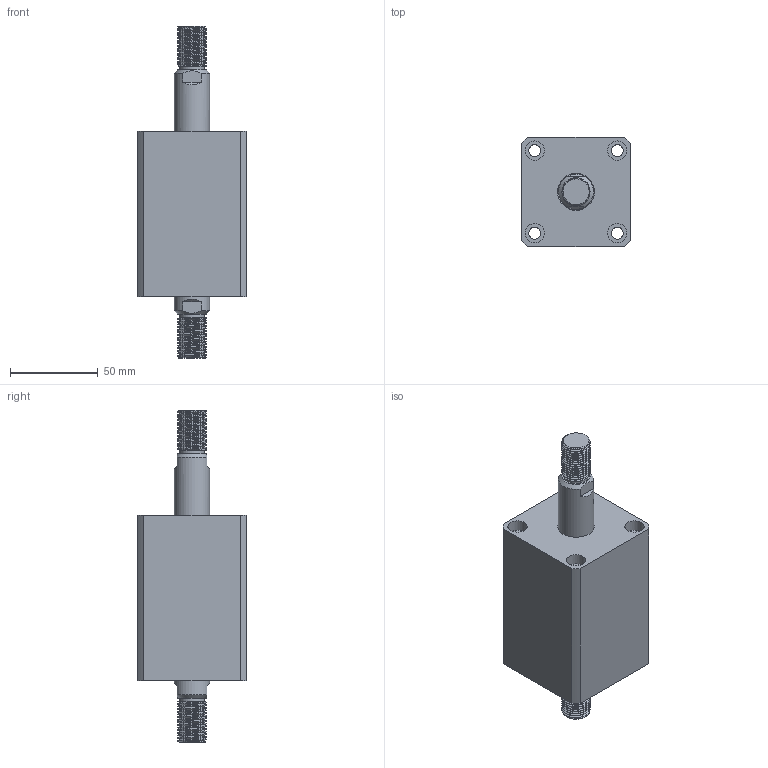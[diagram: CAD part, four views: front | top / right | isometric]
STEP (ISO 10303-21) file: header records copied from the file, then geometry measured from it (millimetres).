
FILE_DESCRIPTION(/* description */ (''),/* implementation_level */ '2;1');
FILE_NAME(/* name */ 'CHTB-SW32-25W.stp',/* time_stamp */ '2022-04-29T17:17:14+08:00',/* author */ (''),/* organization */ (''),/* preprocessor_version */ 'ST-DEVELOPER v16.7',/* originating_system */ 'SIEMENS PLM Software NX 12.0',/* authorisation */ '');
FILE_SCHEMA (('AUTOMOTIVE_DESIGN { 1 0 10303 214 3 1 1 1 }'));
Length unit declared in the file: millimetre
Products named in the file (1): CHTB-SW32-25W
Bounding box: 62 x 62 x 189 mm (x, y, z)
Volume: 345548.2 mm3; surface area: 73131.3 mm2
Topology: 3 solids, 3 shells, 459 faces, 1352 edges, 949 vertices
Faces by surface type: plane 282, extrusion 84, cylinder 55, bspline 14, cone 12, torus 12
Full cylindrical faces by diameter (mm): 3 x2, 4 x2, 6.8 x4, 10.7 x2, 11 x8, 14 x2, 20 x4, 24.5 x1, 26 x2, 28 x1, 32 x5, 38 x9, 46 x1
Entity records: 25801 total; most frequent: CARTESIAN_POINT 12452, ORIENTED_EDGE 2542, DIRECTION 1775, EDGE_CURVE 1271, VERTEX_POINT 934, VECTOR 845, LINE 761, EDGE_LOOP 571
